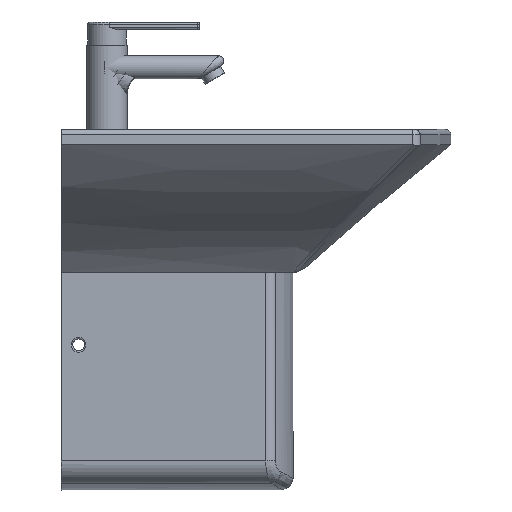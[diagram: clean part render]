
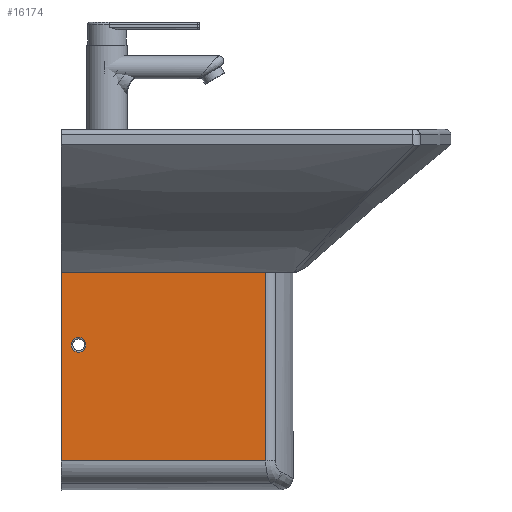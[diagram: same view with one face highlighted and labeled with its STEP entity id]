
A CAD part, left-side view. The second image highlights one B-rep face of the part: STEP entity #16174.
In plain terms, the highlighted planar face has unit normal (-1, 0, 0).
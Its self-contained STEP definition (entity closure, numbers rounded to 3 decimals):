
#12375=CARTESIAN_POINT('',(-15.399,272.135,41.108));
#12376=VERTEX_POINT('',#12375);
#12384=CARTESIAN_POINT('',(-15.399,272.135,285.0));
#12385=VERTEX_POINT('',#12384);
#12386=CARTESIAN_POINT('',(-15.399,272.135,41.108));
#12387=DIRECTION('',(0.0,0.0,1.0));
#12388=VECTOR('',#12387,243.892);
#12389=LINE('',#12386,#12388);
#12390=EDGE_CURVE('',#12376,#12385,#12389,.T.);
#15671=CARTESIAN_POINT('',(-15.399,7.679,285.0));
#15672=VERTEX_POINT('',#15671);
#15673=CARTESIAN_POINT('',(-15.399,7.679,285.0));
#15674=DIRECTION('',(0.0,1.0,0.0));
#15675=VECTOR('',#15674,264.456);
#15676=LINE('',#15673,#15675);
#15677=EDGE_CURVE('',#15672,#12385,#15676,.T.);
#16116=CARTESIAN_POINT('',(-15.399,249.661,181.608));
#16117=VERTEX_POINT('',#16116);
#16118=CARTESIAN_POINT('',(-15.399,249.661,191.108));
#16119=DIRECTION('',(-1.0,0.0,0.0));
#16120=DIRECTION('',(0.0,0.0,1.0));
#16121=AXIS2_PLACEMENT_3D('',#16118,#16119,#16120);
#16122=CIRCLE('',#16121,9.5);
#16123=EDGE_CURVE('',#16117,#16117,#16122,.T.);
#16148=CARTESIAN_POINT('',(-15.399,-0.032,0.0));
#16149=DIRECTION('',(-1.0,0.0,0.0));
#16150=DIRECTION('',(0.0,0.0,1.0));
#16151=AXIS2_PLACEMENT_3D('',#16148,#16149,#16150);
#16152=PLANE('',#16151);
#16153=CARTESIAN_POINT('',(-15.399,7.679,41.108));
#16154=VERTEX_POINT('',#16153);
#16155=CARTESIAN_POINT('',(-15.399,7.679,285.0));
#16156=DIRECTION('',(0.0,0.0,-1.0));
#16157=VECTOR('',#16156,243.892);
#16158=LINE('',#16155,#16157);
#16159=EDGE_CURVE('',#15672,#16154,#16158,.T.);
#16160=ORIENTED_EDGE('',*,*,#16159,.F.);
#16161=ORIENTED_EDGE('',*,*,#15677,.T.);
#16162=ORIENTED_EDGE('',*,*,#12390,.F.);
#16163=CARTESIAN_POINT('',(-15.399,7.679,41.108));
#16164=DIRECTION('',(0.0,1.0,0.0));
#16165=VECTOR('',#16164,264.456);
#16166=LINE('',#16163,#16165);
#16167=EDGE_CURVE('',#16154,#12376,#16166,.T.);
#16168=ORIENTED_EDGE('',*,*,#16167,.F.);
#16169=EDGE_LOOP('',(#16160,#16161,#16162,#16168));
#16170=FACE_OUTER_BOUND('',#16169,.T.);
#16171=ORIENTED_EDGE('',*,*,#16123,.F.);
#16172=EDGE_LOOP('',(#16171));
#16173=FACE_BOUND('',#16172,.T.);
#16174=ADVANCED_FACE('',(#16170,#16173),#16152,.T.);
